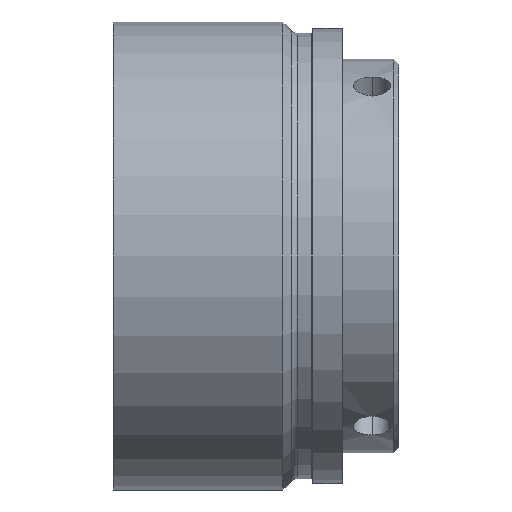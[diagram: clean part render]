
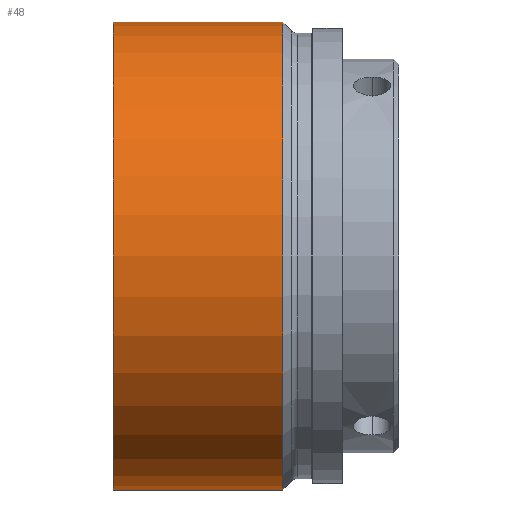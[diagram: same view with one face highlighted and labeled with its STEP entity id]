
A CAD part, front view. The second image highlights one B-rep face of the part: STEP entity #48.
In plain terms, the highlighted cylindrical face has radius 22 mm (diameter 44 mm), a partial arc.
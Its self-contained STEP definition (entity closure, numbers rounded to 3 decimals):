
#48 = ADVANCED_FACE ( 'NONE', ( #1837 ), #1703, .T. ) ;
#209 = DIRECTION ( 'NONE',  ( -1., 0., 0. ) ) ;
#246 = CARTESIAN_POINT ( 'NONE',  ( 0., 0., 22. ) ) ;
#272 = CIRCLE ( 'NONE', #820, 22. ) ;
#292 = DIRECTION ( 'NONE',  ( 0., 0., 1. ) ) ;
#337 = VECTOR ( 'NONE', #2043, 1000. ) ;
#475 = DIRECTION ( 'NONE',  ( 0., 0., 1. ) ) ;
#501 = LINE ( 'NONE', #696, #1095 ) ;
#511 = CARTESIAN_POINT ( 'NONE',  ( 0., 0., -22. ) ) ;
#549 = VERTEX_POINT ( 'NONE', #246 ) ;
#648 = CARTESIAN_POINT ( 'NONE',  ( 15.95, 0., -22. ) ) ;
#660 = ORIENTED_EDGE ( 'NONE', *, *, #1057, .F. ) ;
#696 = CARTESIAN_POINT ( 'NONE',  ( 0., 0., 22. ) ) ;
#752 = CARTESIAN_POINT ( 'NONE',  ( 0., 0., 0. ) ) ;
#820 = AXIS2_PLACEMENT_3D ( 'NONE', #752, #2110, #292 ) ;
#839 = ORIENTED_EDGE ( 'NONE', *, *, #2432, .T. ) ;
#883 = CIRCLE ( 'NONE', #1785, 22. ) ;
#889 = EDGE_CURVE ( 'NONE', #1468, #2262, #2004, .T. ) ;
#1057 = EDGE_CURVE ( 'NONE', #2262, #549, #272, .T. ) ;
#1061 = DIRECTION ( 'NONE',  ( -1., 0., 0. ) ) ;
#1095 = VECTOR ( 'NONE', #209, 1000. ) ;
#1149 = ORIENTED_EDGE ( 'NONE', *, *, #1512, .T. ) ;
#1380 = VERTEX_POINT ( 'NONE', #2089 ) ;
#1433 = CARTESIAN_POINT ( 'NONE',  ( 0., 0., 0. ) ) ;
#1468 = VERTEX_POINT ( 'NONE', #648 ) ;
#1488 = CARTESIAN_POINT ( 'NONE',  ( 0., 0., -22. ) ) ;
#1512 = EDGE_CURVE ( 'NONE', #1380, #549, #501, .T. ) ;
#1551 = DIRECTION ( 'NONE',  ( -1., 0., 0. ) ) ;
#1655 = AXIS2_PLACEMENT_3D ( 'NONE', #1433, #1061, #475 ) ;
#1703 = CYLINDRICAL_SURFACE ( 'NONE', #1655, 22. ) ;
#1785 = AXIS2_PLACEMENT_3D ( 'NONE', #2104, #1551, #2174 ) ;
#1837 = FACE_OUTER_BOUND ( 'NONE', #2328, .T. ) ;
#1838 = ORIENTED_EDGE ( 'NONE', *, *, #889, .F. ) ;
#2004 = LINE ( 'NONE', #1488, #337 ) ;
#2043 = DIRECTION ( 'NONE',  ( -1., 0., 0. ) ) ;
#2089 = CARTESIAN_POINT ( 'NONE',  ( 15.95, 0., 22. ) ) ;
#2104 = CARTESIAN_POINT ( 'NONE',  ( 15.95, 0., 0. ) ) ;
#2110 = DIRECTION ( 'NONE',  ( -1., 0., 0. ) ) ;
#2174 = DIRECTION ( 'NONE',  ( 0., 0., 1. ) ) ;
#2262 = VERTEX_POINT ( 'NONE', #511 ) ;
#2328 = EDGE_LOOP ( 'NONE', ( #1838, #839, #1149, #660 ) ) ;
#2432 = EDGE_CURVE ( 'NONE', #1468, #1380, #883, .T. ) ;
